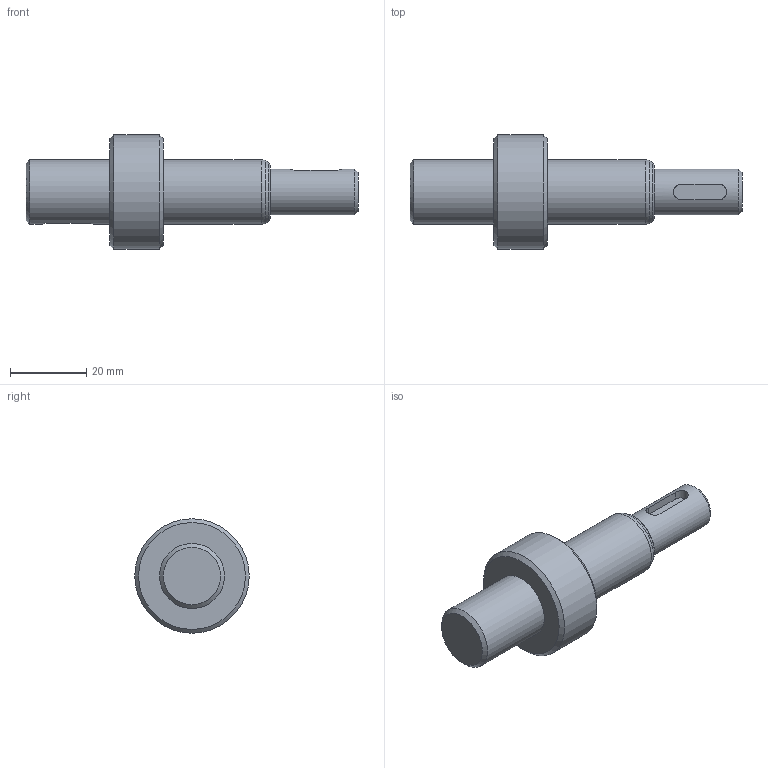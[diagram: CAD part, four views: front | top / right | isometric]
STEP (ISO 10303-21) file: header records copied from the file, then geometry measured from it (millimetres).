
FILE_DESCRIPTION(/* description */ (''),/* implementation_level */ '2;1');
FILE_NAME(/* name */ '',/* time_stamp */ '2024-07-17T10:51:36+09:00',/* author */ ('jhkim'),/* organization */ (''),/* preprocessor_version */ 'ST-DEVELOPER v20',/* originating_system */ 'Autodesk Inventor 2025',/* authorisation */ '');
FILE_SCHEMA (('AUTOMOTIVE_DESIGN { 1 0 10303 214 3 1 1 }'));
Length unit declared in the file: millimetre
Products named in the file (1): 메인 축
Bounding box: 87 x 30 x 30 mm (x, y, z)
Volume: 23261.9 mm3; surface area: 6315.8 mm2
Topology: 1 solids, 1 shells, 28 faces, 66 edges, 45 vertices
Faces by surface type: plane 11, cylinder 9, cone 6, torus 2
Full cylindrical faces by diameter (mm): 3.242 x1, 12 x1, 17 x2, 30 x1
Entity records: 918 total; most frequent: CARTESIAN_POINT 211, DIRECTION 145, ORIENTED_EDGE 130, EDGE_CURVE 65, AXIS2_PLACEMENT_3D 59, VERTEX_POINT 45, EDGE_LOOP 34, CIRCLE 30
